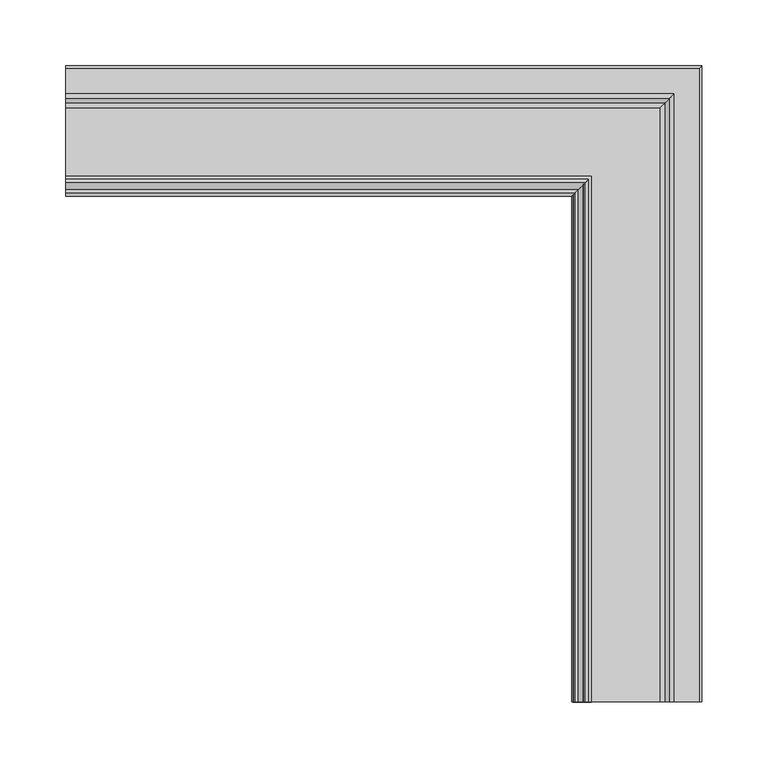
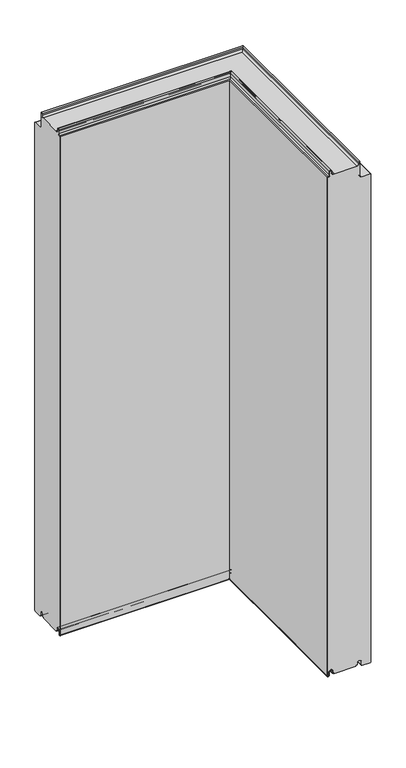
"""IFC4 building model written with IfcOpenShell, lengths in millimetres: plate geometry, Угловой модуль Fronttop : Угловой модуль Fronttop 100/1200."""

from ifc_helpers import new_model, si_unit, frame, origin, place, context, project, spatial, polyline, circle_curve, ellipse_curve, source, transform, mapped, element, save
from ifc_brep_helpers import plane_surface, cylinder_surface, revolved_surface, advanced_brep


def plate_e1a31c6e(model_context):
    return source(origin(), model_context, "Body", "AdvancedBrep", [
        advanced_brep(
        [(-234.5, 15.0, 3.0), (-234.5, 13.0, 3.0), (-234.5, 12.0, 4.0), (-234.5, 12.0, 8.0), (-234.5, 3.0, 8.0), (-234.5, 3.0, -0.5), (-234.5, 1.0, -0.5), (-234.5, 1.0, 1195.0278643), (-234.5, 2.1111111, 1196.0216723), (-234.5, 6.0, 1199.5), (-234.5, 6.0, 1208.0), (-234.5, 9.0, 1208.0), (-234.5, 9.0, 1204.0), (-234.5, 13.0, 1200.0), (-234.5, 67.0, 1200.0), (-234.5, 71.0, 1204.0), (-234.5, 71.0, 1208.0), (-234.5, 74.0, 1208.0), (-234.5, 74.0, 1175.0), (-234.5, 78.0, 1171.0), (-234.5, 97.0, 1171.0), (-234.5, 99.0, 1169.0), (-234.5, 99.0, 0.0), (-234.5, 97.0, -2.0), (-234.5, 79.0, -2.0), (-234.5, 77.0, 0.0), (-234.5, 77.0, 8.0), (-234.5, 68.0, 8.0), (-234.5, 68.0, 4.0), (-234.5, 67.0, 3.0), (-234.5, 65.0, 3.0), (-234.5, 65.0, 0.0), (-234.5, 15.0, 0.0), (165.0, 15.0, 0.0), (165.0, 15.0, 3.0), (215.0, 65.0, 0.0), (215.0, -384.5, 0.0), (165.0, -384.5, 0.0), (215.0, 65.0, 3.0), (217.0, 67.0, 3.0), (217.0, -384.5, 3.0), (215.0, -384.5, 3.0), (218.0, 68.0, 4.0), (218.0, 68.0, 8.0), (227.0, 77.0, 8.0), (227.0, 77.0, 0.0), (229.0, 79.0, -2.0), (247.0, 97.0, -2.0), (247.0, -384.5, -2.0), (229.0, -384.5, -2.0), (249.0, 99.0, 0.0), (249.0, 99.0, 1169.0), (247.0, 97.0, 1171.0), (228.0, 78.0, 1171.0), (228.0, -384.5, 1171.0), (247.0, -384.5, 1171.0), (224.0, 74.0, 1175.0), (224.0, 74.0, 1208.0), (221.0, 71.0, 1208.0), (221.0, 71.0, 1204.0), (217.0, 67.0, 1200.0), (163.0, 13.0, 1200.0), (163.0, -384.5, 1200.0), (217.0, -384.5, 1200.0), (159.0, 9.0, 1204.0), (159.0, 9.0, 1208.0), (156.0, 6.0, 1208.0), (156.0, 6.0, 1199.5), (152.1111111, 2.1111111, 1196.021672), (151.0, 1.0, 1195.0278643), (151.0, 1.0, -0.5), (153.0, 3.0, -0.5), (153.0, 3.0, 8.0), (162.0, 12.0, 8.0), (162.0, 12.0, 4.0), (163.0, 13.0, 3.0), (165.0, -384.5, 3.0), (163.0, -384.5, 3.0), (218.0, -384.5, 4.0), (218.0, -384.5, 8.0), (227.0, -384.5, 8.0), (227.0, -384.5, 0.0), (249.0, -384.5, 0.0), (249.0, -384.5, 1169.0), (224.0, -384.5, 1175.0), (224.0, -384.5, 1208.0), (221.0, -384.5, 1208.0), (221.0, -384.5, 1204.0), (159.0, -384.5, 1204.0), (159.0, -384.5, 1208.0), (156.0, -384.5, 1208.0), (156.0, -384.5, 1199.5), (152.1111111, -384.5, 1196.021672), (151.0, -384.5, 1195.0278643), (151.0, -384.5, -0.5), (153.0, -384.5, -0.5), (153.0, -384.5, 8.0), (162.0, -384.5, 8.0), (162.0, -384.5, 4.0)],
        [
            (0, 1),
            (1, 2, circle_curve(frame((-234.5, 13.0, 4.0), z_axis=(-1.0, 0.0, 0.0), x_axis=(0.0, -1.0, 0.0)), 1.0)),
            (2, 3),
            (3, 4, circle_curve(frame((-234.5, 7.5, 8.0), z_axis=(1.0, 0.0, 0.0), x_axis=(0.0, -1.0, 0.0)), 4.5)),
            (4, 5),
            (5, 6, circle_curve(frame((-234.5, 2.0, -0.5), z_axis=(-1.0, 0.0, 0.0), x_axis=(0.0, -1.0, 0.0)), 1.0)),
            (6, 7),
            (7, 8, circle_curve(frame((-234.5, 2.0, 1195.0278643), z_axis=(-1.0, 0.0, 0.0), x_axis=(0.0, -1.0, 0.0)), 1.0)),
            (8, 9, circle_curve(frame((-234.5, 2.5, 1199.5), z_axis=(1.0, 0.0, 0.0), x_axis=(0.0, -1.0, 0.0)), 3.5)),
            (9, 10),
            (10, 11, circle_curve(frame((-234.5, 7.5, 1208.0), z_axis=(-1.0, 0.0, 0.0), x_axis=(0.0, -1.0, 0.0)), 1.5)),
            (11, 12),
            (12, 13, circle_curve(frame((-234.5, 13.0, 1204.0), z_axis=(1.0, 0.0, 0.0), x_axis=(0.0, -1.0, 0.0)), 4.0)),
            (13, 14),
            (14, 15, circle_curve(frame((-234.5, 67.0, 1204.0), z_axis=(1.0, 0.0, 0.0), x_axis=(0.0, -1.0, 0.0)), 4.0)),
            (15, 16),
            (16, 17, circle_curve(frame((-234.5, 72.5, 1208.0), z_axis=(-1.0, 0.0, 0.0), x_axis=(0.0, -1.0, 0.0)), 1.5)),
            (17, 18),
            (18, 19, circle_curve(frame((-234.5, 78.0, 1175.0), z_axis=(1.0, 0.0, 0.0), x_axis=(0.0, -1.0, 0.0)), 4.0)),
            (19, 20),
            (20, 21, circle_curve(frame((-234.5, 97.0, 1169.0), z_axis=(-1.0, 0.0, 0.0), x_axis=(0.0, -1.0, 0.0)), 2.0)),
            (21, 22),
            (22, 23, circle_curve(frame((-234.5, 97.0, 0.0), z_axis=(-1.0, 0.0, 0.0), x_axis=(0.0, -1.0, 0.0)), 2.0)),
            (23, 24),
            (24, 25, circle_curve(frame((-234.5, 79.0, 0.0), z_axis=(-1.0, 0.0, 0.0), x_axis=(0.0, -1.0, 0.0)), 2.0)),
            (25, 26),
            (26, 27, circle_curve(frame((-234.5, 72.5, 8.0), z_axis=(1.0, 0.0, 0.0), x_axis=(0.0, -1.0, 0.0)), 4.5)),
            (27, 28),
            (28, 29, circle_curve(frame((-234.5, 67.0, 4.0), z_axis=(-1.0, 0.0, 0.0), x_axis=(0.0, -1.0, 0.0)), 1.0)),
            (29, 30),
            (30, 31),
            (31, 32),
            (32, 0),
            (32, 33),
            (33, 34),
            (34, 0),
            (31, 35),
            (35, 36),
            (36, 37),
            (37, 33),
            (30, 38),
            (38, 35),
            (29, 39),
            (39, 40),
            (40, 41),
            (41, 38),
            (28, 42),
            (42, 39, ellipse_curve(frame((217.0, 67.0, 4.0), z_axis=(-0.7071067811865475, 0.7071067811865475, 0.0), x_axis=(-0.7071067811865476, -0.7071067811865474, 0.0)), 1.4142136, 1.0)),
            (27, 43),
            (43, 42),
            (26, 44),
            (44, 43, ellipse_curve(frame((222.5, 72.5, 8.0), z_axis=(0.7071067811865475, -0.7071067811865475, 0.0), x_axis=(0.7071067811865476, 0.7071067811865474, 0.0)), 6.363961, 4.5)),
            (25, 45),
            (45, 44),
            (24, 46),
            (46, 45, ellipse_curve(frame((229.0, 79.0, 0.0), z_axis=(-0.7071067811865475, 0.7071067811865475, 0.0), x_axis=(-0.7071067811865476, -0.7071067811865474, 0.0)), 2.8284271, 2.0)),
            (23, 47),
            (47, 48),
            (48, 49),
            (49, 46),
            (22, 50),
            (50, 47, ellipse_curve(frame((247.0, 97.0, 0.0), z_axis=(-0.7071067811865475, 0.7071067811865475, 0.0), x_axis=(-0.7071067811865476, -0.7071067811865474, 0.0)), 2.8284271, 2.0)),
            (21, 51),
            (51, 50),
            (20, 52),
            (52, 51, ellipse_curve(frame((247.0, 97.0, 1169.0), z_axis=(-0.7071067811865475, 0.7071067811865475, 0.0), x_axis=(-0.7071067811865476, -0.7071067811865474, 0.0)), 2.8284271, 2.0)),
            (19, 53),
            (53, 54),
            (54, 55),
            (55, 52),
            (18, 56),
            (56, 53, ellipse_curve(frame((228.0, 78.0, 1175.0), z_axis=(0.7071067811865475, -0.7071067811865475, 0.0), x_axis=(0.7071067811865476, 0.7071067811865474, 0.0)), 5.6568542, 4.0)),
            (17, 57),
            (57, 56),
            (16, 58),
            (58, 57, ellipse_curve(frame((222.5, 72.5, 1208.0), z_axis=(-0.7071067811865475, 0.7071067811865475, 0.0), x_axis=(-0.7071067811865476, -0.7071067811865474, 0.0)), 2.1213203, 1.5)),
            (15, 59),
            (59, 58),
            (14, 60),
            (60, 59, ellipse_curve(frame((217.0, 67.0, 1204.0), z_axis=(0.7071067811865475, -0.7071067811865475, 0.0), x_axis=(0.7071067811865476, 0.7071067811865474, 0.0)), 5.6568542, 4.0)),
            (13, 61),
            (61, 62),
            (62, 63),
            (63, 60),
            (12, 64),
            (64, 61, ellipse_curve(frame((163.0, 13.0, 1204.0), z_axis=(0.7071067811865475, -0.7071067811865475, 0.0), x_axis=(0.7071067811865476, 0.7071067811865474, 0.0)), 5.6568542, 4.0)),
            (11, 65),
            (65, 64),
            (10, 66),
            (66, 65, ellipse_curve(frame((157.5, 7.5, 1208.0), z_axis=(-0.7071067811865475, 0.7071067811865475, 0.0), x_axis=(-0.7071067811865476, -0.7071067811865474, 0.0)), 2.1213204, 1.5)),
            (9, 67),
            (67, 66),
            (8, 68),
            (68, 67, ellipse_curve(frame((152.5, 2.5, 1199.5), z_axis=(0.7071067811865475, -0.7071067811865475, 0.0), x_axis=(0.7071067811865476, 0.7071067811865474, 0.0)), 4.9497475, 3.5)),
            (7, 69),
            (69, 68, ellipse_curve(frame((152.0, 2.0, 1195.0278643), z_axis=(-0.7071067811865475, 0.7071067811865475, 0.0), x_axis=(-0.7071067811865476, -0.7071067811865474, 0.0)), 1.4142136, 1.0)),
            (6, 70),
            (70, 69),
            (5, 71),
            (71, 70, ellipse_curve(frame((152.0, 2.0, -0.5), z_axis=(-0.7071067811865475, 0.7071067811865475, 0.0), x_axis=(-0.7071067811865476, -0.7071067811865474, 0.0)), 1.4142136, 1.0)),
            (4, 72),
            (72, 71),
            (3, 73),
            (73, 72, ellipse_curve(frame((157.5, 7.5, 8.0), z_axis=(0.7071067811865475, -0.7071067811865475, 0.0), x_axis=(0.7071067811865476, 0.7071067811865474, 0.0)), 6.363961, 4.5)),
            (2, 74),
            (74, 73),
            (1, 75),
            (75, 74, ellipse_curve(frame((163.0, 13.0, 4.0), z_axis=(-0.7071067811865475, 0.7071067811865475, 0.0), x_axis=(-0.7071067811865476, -0.7071067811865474, 0.0)), 1.4142136, 1.0)),
            (34, 76),
            (76, 77),
            (77, 75),
            (76, 37),
            (36, 41),
            (40, 78, circle_curve(frame((217.0, -384.5, 4.0), z_axis=(0.0, -1.0, 0.0), x_axis=(-1.0, 0.0, 0.0)), 1.0)),
            (78, 79),
            (79, 80, circle_curve(frame((222.5, -384.5, 8.0), z_axis=(0.0, 1.0, 0.0), x_axis=(-1.0, 0.0, 0.0)), 4.5)),
            (80, 81),
            (81, 49, circle_curve(frame((229.0, -384.5, 0.0), z_axis=(0.0, -1.0, 0.0), x_axis=(-1.0, 0.0, 0.0)), 2.0)),
            (48, 82, circle_curve(frame((247.0, -384.5, 0.0), z_axis=(0.0, -1.0, 0.0), x_axis=(-1.0, 0.0, 0.0)), 2.0)),
            (82, 83),
            (83, 55, circle_curve(frame((247.0, -384.5, 1169.0), z_axis=(0.0, -1.0, 0.0), x_axis=(-1.0, 0.0, 0.0)), 2.0)),
            (54, 84, circle_curve(frame((228.0, -384.5, 1175.0), z_axis=(0.0, 1.0, 0.0), x_axis=(-1.0, 0.0, 0.0)), 4.0)),
            (84, 85),
            (85, 86, circle_curve(frame((222.5, -384.5, 1208.0), z_axis=(0.0, -1.0, 0.0), x_axis=(-1.0, 0.0, 0.0)), 1.5)),
            (86, 87),
            (87, 63, circle_curve(frame((217.0, -384.5, 1204.0), z_axis=(0.0, 1.0, 0.0), x_axis=(-1.0, 0.0, 0.0)), 4.0)),
            (62, 88, circle_curve(frame((163.0, -384.5, 1204.0), z_axis=(0.0, 1.0, 0.0), x_axis=(-1.0, 0.0, 0.0)), 4.0)),
            (88, 89),
            (89, 90, circle_curve(frame((157.5, -384.5, 1208.0), z_axis=(0.0, -1.0, 0.0), x_axis=(-1.0, 0.0, 0.0)), 1.5)),
            (90, 91),
            (91, 92, circle_curve(frame((152.5, -384.5, 1199.5), z_axis=(0.0, 1.0, 0.0), x_axis=(-1.0, 0.0, 0.0)), 3.5)),
            (92, 93, circle_curve(frame((152.0, -384.5, 1195.0278643), z_axis=(0.0, -1.0, 0.0), x_axis=(-1.0, 0.0, 0.0)), 1.0)),
            (93, 94),
            (94, 95, circle_curve(frame((152.0, -384.5, -0.5), z_axis=(0.0, -1.0, 0.0), x_axis=(-1.0, 0.0, 0.0)), 1.0)),
            (95, 96),
            (96, 97, circle_curve(frame((157.5, -384.5, 8.0), z_axis=(0.0, 1.0, 0.0), x_axis=(-1.0, 0.0, 0.0)), 4.5)),
            (97, 98),
            (98, 77, circle_curve(frame((163.0, -384.5, 4.0), z_axis=(0.0, -1.0, 0.0), x_axis=(-1.0, 0.0, 0.0)), 1.0)),
            (42, 78),
            (43, 79),
            (44, 80),
            (45, 81),
            (50, 82),
            (51, 83),
            (56, 84),
            (57, 85),
            (58, 86),
            (59, 87),
            (64, 88),
            (65, 89),
            (66, 90),
            (67, 91),
            (68, 92),
            (69, 93),
            (70, 94),
            (71, 95),
            (72, 96),
            (73, 97),
            (74, 98),
        ],
        [
            plane_surface(frame((-234.5, 0.0, 0.0), z_axis=(-1.0, 0.0, 0.0), x_axis=(0.0, 0.0, 1.0))),
            plane_surface(frame((-234.5, 15.0, 0.0), z_axis=(0.0, -1.0, 0.0), x_axis=(1.0, 0.0, 0.0))),
            plane_surface(frame((-234.5, 65.0, 0.0), z_axis=(0.0, 0.0, -1.0), x_axis=(1.0, 0.0, 0.0))),
            plane_surface(frame((-234.5, 65.0, 3.0), z_axis=(0.0, 1.0, 0.0), x_axis=(1.0, 0.0, 0.0))),
            plane_surface(frame((-234.5, 67.0, 3.0), z_axis=(0.0, 0.0, -1.0), x_axis=(1.0, 0.0, 0.0))),
            cylinder_surface(frame((-234.5, 67.0, 4.0), z_axis=(-1.0, 0.0, 0.0), x_axis=(0.0, -1.0, 0.0)), 1.0),
            plane_surface(frame((-234.5, 68.0, 8.0), z_axis=(0.0, 1.0, 0.0), x_axis=(1.0, 0.0, 0.0))),
            revolved_surface(polyline([(227.0, 68.0, 8.0), (-234.5, 68.0, 8.0)]), (-234.5, 72.5, 8.0), (1.0, 0.0, 0.0)),
            plane_surface(frame((-234.5, 77.0, 0.0), z_axis=(0.0, -1.0, 0.0), x_axis=(1.0, 0.0, 0.0))),
            cylinder_surface(frame((-234.5, 79.0, 0.0), z_axis=(-1.0, 0.0, 0.0), x_axis=(0.0, -1.0, 0.0)), 2.0),
            plane_surface(frame((-234.5, 97.0, -2.0), z_axis=(0.0, 0.0, -1.0), x_axis=(1.0, 0.0, 0.0))),
            cylinder_surface(frame((-234.5, 97.0, 0.0), z_axis=(-1.0, 0.0, 0.0), x_axis=(0.0, -1.0, 0.0)), 2.0),
            plane_surface(frame((-234.5, 99.0, 1169.0), z_axis=(0.0, 1.0, 0.0), x_axis=(1.0, 0.0, 0.0))),
            cylinder_surface(frame((-234.5, 97.0, 1169.0), z_axis=(-1.0, 0.0, 0.0), x_axis=(0.0, -1.0, 0.0)), 2.0),
            plane_surface(frame((-234.5, 78.0, 1171.0), z_axis=(0.0, 0.0, 1.0), x_axis=(1.0, 0.0, 0.0))),
            revolved_surface(polyline([(231.9999999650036, 74.0, 1175.0), (-234.5, 74.0, 1175.0)]), (-234.5, 78.0, 1175.0), (1.0, 0.0, 0.0)),
            plane_surface(frame((-234.5, 74.0, 1208.0), z_axis=(0.0, 1.0, 0.0), x_axis=(1.0, 0.0, 0.0))),
            cylinder_surface(frame((-234.5, 72.5, 1208.0), z_axis=(-1.0, 0.0, 0.0), x_axis=(0.0, -1.0, 0.0)), 1.5),
            plane_surface(frame((-234.5, 71.0, 1204.0), z_axis=(0.0, -1.0, 0.0), x_axis=(1.0, 0.0, 0.0))),
            revolved_surface(polyline([(221.0, 63.0, 1204.0), (-234.5, 63.0, 1204.0)]), (-234.5, 67.0, 1204.0), (1.0, 0.0, 0.0)),
            plane_surface(frame((-234.5, 13.0, 1200.0), z_axis=(0.0, 0.0, 1.0), x_axis=(1.0, 0.0, 0.0))),
            revolved_surface(polyline([(166.9999999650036, 9.0, 1204.0), (-234.5, 9.0, 1204.0)]), (-234.5, 13.0, 1204.0), (1.0, 0.0, 0.0)),
            plane_surface(frame((-234.5, 9.0, 1208.0), z_axis=(0.0, 1.0, 0.0), x_axis=(1.0, 0.0, 0.0))),
            cylinder_surface(frame((-234.5, 7.5, 1208.0), z_axis=(-1.0, 0.0, 0.0), x_axis=(0.0, -1.0, 0.0)), 1.5),
            plane_surface(frame((-234.5, 6.0, 1199.5), z_axis=(0.0, -1.0, 0.0), x_axis=(1.0, 0.0, 0.0))),
            revolved_surface(polyline([(156.00000002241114, -1.0, 1199.5), (-234.5, -1.0, 1199.5)]), (-234.5, 2.5, 1199.5), (1.0, 0.0, 0.0)),
            cylinder_surface(frame((-234.5, 2.0, 1195.0278643), z_axis=(-1.0, 0.0, 0.0), x_axis=(0.0, -1.0, 0.0)), 1.0),
            plane_surface(frame((-234.5, 1.0, -0.5), z_axis=(0.0, -1.0, 0.0), x_axis=(1.0, 0.0, 0.0))),
            cylinder_surface(frame((-234.5, 2.0, -0.5), z_axis=(-1.0, 0.0, 0.0), x_axis=(0.0, -1.0, 0.0)), 1.0),
            plane_surface(frame((-234.5, 3.0, 8.0), z_axis=(0.0, 1.0, 0.0), x_axis=(1.0, 0.0, 0.0))),
            revolved_surface(polyline([(162.0, 3.0, 8.0), (-234.5, 3.0, 8.0)]), (-234.5, 7.5, 8.0), (1.0, 0.0, 0.0)),
            plane_surface(frame((-234.5, 12.0, 4.0), z_axis=(0.0, -1.0, 0.0), x_axis=(1.0, 0.0, 0.0))),
            cylinder_surface(frame((-234.5, 13.0, 4.0), z_axis=(-1.0, 0.0, 0.0), x_axis=(0.0, -1.0, 0.0)), 1.0),
            plane_surface(frame((-234.5, 15.0, 3.0), z_axis=(0.0, 0.0, -1.0), x_axis=(1.0, 0.0, 0.0))),
            plane_surface(frame((150.0, -384.5, 0.0), z_axis=(0.0, -1.0, 0.0), x_axis=(0.0, 0.0, 1.0))),
            plane_surface(frame((165.0, 15.0, 0.0), z_axis=(-1.0, 0.0, 0.0), x_axis=(0.0, -1.0, 0.0))),
            plane_surface(frame((215.0, 65.0, 3.0), z_axis=(1.0, 0.0, 0.0), x_axis=(0.0, -1.0, 0.0))),
            cylinder_surface(frame((217.0, 0.0, 4.0), z_axis=(0.0, 1.0, 0.0), x_axis=(-1.0, 0.0, 0.0)), 1.0),
            plane_surface(frame((218.0, 68.0, 8.0), z_axis=(1.0, 0.0, 0.0), x_axis=(0.0, -1.0, 0.0))),
            revolved_surface(polyline([(218.0, -384.5, 8.0), (218.0, 77.0, 8.0)]), (222.5, 0.0, 8.0), (0.0, -1.0, 0.0)),
            plane_surface(frame((227.0, 77.0, 0.0), z_axis=(-1.0, 0.0, 0.0), x_axis=(0.0, -1.0, 0.0))),
            cylinder_surface(frame((229.0, 0.0, 0.0), z_axis=(0.0, 1.0, 0.0), x_axis=(-1.0, 0.0, 0.0)), 2.0),
            cylinder_surface(frame((247.0, 0.0, 0.0), z_axis=(0.0, 1.0, 0.0), x_axis=(-1.0, 0.0, 0.0)), 2.0),
            plane_surface(frame((249.0, 99.0, 1169.0), z_axis=(1.0, 0.0, 0.0), x_axis=(0.0, -1.0, 0.0))),
            cylinder_surface(frame((247.0, 0.0, 1169.0), z_axis=(0.0, 1.0, 0.0), x_axis=(-1.0, 0.0, 0.0)), 2.0),
            revolved_surface(polyline([(224.0, -384.5, 1175.0), (224.0, 81.9999999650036, 1175.0)]), (228.0, 0.0, 1175.0), (0.0, -1.0, 0.0)),
            plane_surface(frame((224.0, 74.0, 1208.0), z_axis=(1.0, 0.0, 0.0), x_axis=(0.0, -1.0, 0.0))),
            cylinder_surface(frame((222.5, 0.0, 1208.0), z_axis=(0.0, 1.0, 0.0), x_axis=(-1.0, 0.0, 0.0)), 1.5),
            plane_surface(frame((221.0, 71.0, 1204.0), z_axis=(-1.0, 0.0, 0.0), x_axis=(0.0, -1.0, 0.0))),
            revolved_surface(polyline([(213.0, -384.5, 1204.0), (213.0, 71.0, 1204.0)]), (217.0, 0.0, 1204.0), (0.0, -1.0, 0.0)),
            revolved_surface(polyline([(159.0, -384.5, 1204.0), (159.0, 16.999999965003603, 1204.0)]), (163.0, 0.0, 1204.0), (0.0, -1.0, 0.0)),
            plane_surface(frame((159.0, 9.0, 1208.0), z_axis=(1.0, 0.0, 0.0), x_axis=(0.0, -1.0, 0.0))),
            cylinder_surface(frame((157.5, 0.0, 1208.0), z_axis=(0.0, 1.0, 0.0), x_axis=(-1.0, 0.0, 0.0)), 1.5),
            plane_surface(frame((156.0, 6.0, 1199.5), z_axis=(-1.0, 0.0, 0.0), x_axis=(0.0, -1.0, 0.0))),
            revolved_surface(polyline([(149.0, -384.5, 1199.5), (149.0, 6.000000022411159, 1199.5)]), (152.5, 0.0, 1199.5), (0.0, -1.0, 0.0)),
            cylinder_surface(frame((152.0, 0.0, 1195.0278643), z_axis=(0.0, 1.0, 0.0), x_axis=(-1.0, 0.0, 0.0)), 1.0),
            plane_surface(frame((151.0, 1.0, -0.5), z_axis=(-1.0, 0.0, 0.0), x_axis=(0.0, -1.0, 0.0))),
            cylinder_surface(frame((152.0, 0.0, -0.5), z_axis=(0.0, 1.0, 0.0), x_axis=(-1.0, 0.0, 0.0)), 1.0),
            plane_surface(frame((153.0, 3.0, 8.0), z_axis=(1.0, 0.0, 0.0), x_axis=(0.0, -1.0, 0.0))),
            revolved_surface(polyline([(153.0, -384.5, 8.0), (153.0, 12.0, 8.0)]), (157.5, 0.0, 8.0), (0.0, -1.0, 0.0)),
            plane_surface(frame((162.0, 12.0, 4.0), z_axis=(-1.0, 0.0, 0.0), x_axis=(0.0, -1.0, 0.0))),
            cylinder_surface(frame((163.0, 0.0, 4.0), z_axis=(0.0, 1.0, 0.0), x_axis=(-1.0, 0.0, 0.0)), 1.0),
        ],
        [
            (0, [[1, 2, 3, 4, 5, 6, 7, 8, 9, 10, 11, 12, 13, 14, 15, 16, 17, 18, 19, 20, 21, 22, 23, 24, 25, 26, 27, 28, 29, 30, 31, 32, 33]]),
            (1, [[-33, 34, 35, 36]]),
            (2, [[-32, 37, 38, 39, 40, -34]]),
            (3, [[-31, 41, 42, -37]]),
            (4, [[-30, 43, 44, 45, 46, -41]]),
            (5, [[-29, 47, 48, -43]]),
            (6, [[-28, 49, 50, -47]]),
            (7, [[-27, 51, 52, -49]]),
            (8, [[-26, 53, 54, -51]]),
            (9, [[-25, 55, 56, -53]]),
            (10, [[-24, 57, 58, 59, 60, -55]]),
            (11, [[-23, 61, 62, -57]]),
            (12, [[-22, 63, 64, -61]]),
            (13, [[-21, 65, 66, -63]]),
            (14, [[-20, 67, 68, 69, 70, -65]]),
            (15, [[-19, 71, 72, -67]]),
            (16, [[-18, 73, 74, -71]]),
            (17, [[-17, 75, 76, -73]]),
            (18, [[-16, 77, 78, -75]]),
            (19, [[-15, 79, 80, -77]]),
            (20, [[-14, 81, 82, 83, 84, -79]]),
            (21, [[-13, 85, 86, -81]]),
            (22, [[-12, 87, 88, -85]]),
            (23, [[-11, 89, 90, -87]]),
            (24, [[-10, 91, 92, -89]]),
            (25, [[-9, 93, 94, -91]]),
            (26, [[-8, 95, 96, -93]]),
            (27, [[-7, 97, 98, -95]]),
            (28, [[-6, 99, 100, -97]]),
            (29, [[-5, 101, 102, -99]]),
            (30, [[-4, 103, 104, -101]]),
            (31, [[-3, 105, 106, -103]]),
            (32, [[-2, 107, 108, -105]]),
            (33, [[-1, -36, 109, 110, 111, -107]]),
            (34, [[112, -39, 113, -45, 114, 115, 116, 117, 118, -59, 119, 120, 121, -69, 122, 123, 124, 125, 126, -83, 127, 128, 129, 130, 131, 132, 133, 134, 135, 136, 137, 138, -110]]),
            (35, [[-35, -40, -112, -109]]),
            (36, [[-42, -46, -113, -38]]),
            (37, [[-48, 139, -114, -44]]),
            (38, [[-50, 140, -115, -139]]),
            (39, [[-52, 141, -116, -140]]),
            (40, [[-54, 142, -117, -141]]),
            (41, [[-56, -60, -118, -142]]),
            (42, [[-62, 143, -119, -58]]),
            (43, [[-64, 144, -120, -143]]),
            (44, [[-66, -70, -121, -144]]),
            (45, [[-72, 145, -122, -68]]),
            (46, [[-74, 146, -123, -145]]),
            (47, [[-76, 147, -124, -146]]),
            (48, [[-78, 148, -125, -147]]),
            (49, [[-80, -84, -126, -148]]),
            (50, [[-86, 149, -127, -82]]),
            (51, [[-88, 150, -128, -149]]),
            (52, [[-90, 151, -129, -150]]),
            (53, [[-92, 152, -130, -151]]),
            (54, [[-94, 153, -131, -152]]),
            (55, [[-96, 154, -132, -153]]),
            (56, [[-98, 155, -133, -154]]),
            (57, [[-100, 156, -134, -155]]),
            (58, [[-102, 157, -135, -156]]),
            (59, [[-104, 158, -136, -157]]),
            (60, [[-106, 159, -137, -158]]),
            (61, [[-108, -111, -138, -159]]),
        ],
    ),
        advanced_brep(
        [(-234.5, 13.0, 1201.0), (-234.5, 15.0, 1201.0), (-234.5, 15.0, 1200.0), (-234.5, 13.0, 1200.0), (-234.5, 9.0, 1204.0), (-234.5, 9.0, 1208.0), (-234.5, 6.0, 1208.0), (-234.5, 6.0, 1199.5), (-234.5, 2.1134897, 1196.0214069), (-234.5, 1.0, 1195.0), (-234.5, 1.0, -0.5), (-234.5, 3.0, -0.5), (-234.5, 3.0, 8.0), (-234.5, 12.0, 8.0), (-234.5, 12.0, 4.0), (-234.5, 13.0, 3.0), (-234.5, 15.0, 3.0), (-234.5, 15.0, 2.0), (-234.5, 13.0, 2.0), (-234.5, 11.0, 4.0), (-234.5, 11.0, 8.0), (-234.5, 4.0, 8.0), (-234.5, 4.0, -0.5), (-234.5, 0.0, -0.5), (-234.5, 0.0, 1195.0), (-234.5, 2.220863, 1196.9877675), (-234.5, 5.0, 1199.5), (-234.5, 5.0, 1208.0), (-234.5, 10.0, 1208.0), (-234.5, 10.0, 1204.0), (163.0, 13.0, 1201.0), (163.0, -384.5, 1201.0), (165.0, -384.5, 1201.0), (165.0, 15.0, 1201.0), (165.0, 15.0, 1200.0), (165.0, -384.5, 1200.0), (163.0, -384.5, 1200.0), (163.0, 13.0, 1200.0), (159.0, 9.0, 1204.0), (159.0, 9.0, 1208.0), (156.0, 6.0, 1208.0), (156.0, 6.0, 1199.5), (152.1134897, 2.1134897, 1196.0214069), (151.0, 1.0, 1195.0), (151.0, 1.0, -0.5), (153.0, 3.0, -0.5), (153.0, 3.0, 8.0), (162.0, 12.0, 8.0), (162.0, 12.0, 4.0), (163.0, 13.0, 3.0), (163.0, -384.5, 3.0), (165.0, -384.5, 3.0), (165.0, 15.0, 3.0), (165.0, 15.0, 2.0), (165.0, -384.5, 2.0), (163.0, -384.5, 2.0), (163.0, 13.0, 2.0), (161.0, 11.0, 4.0), (161.0, 11.0, 8.0), (154.0, 4.0, 8.0), (154.0, 4.0, -0.5), (150.0, 0.0, -0.5), (150.0, 0.0, 1195.0), (152.220863, 2.220863, 1196.9877675), (155.0, 5.0, 1199.5), (155.0, 5.0, 1208.0), (160.0, 10.0, 1208.0), (160.0, 10.0, 1204.0), (160.0, -384.5, 1204.0), (160.0, -384.5, 1208.0), (155.0, -384.5, 1208.0), (155.0, -384.5, 1199.5), (152.2239212, -384.5, 1197.0152907), (150.0, -384.5, 1195.0), (150.0, -384.5, -0.5), (154.0, -384.5, -0.5), (154.0, -384.5, 8.0), (161.0, -384.5, 8.0), (161.0, -384.5, 4.0), (162.0, -384.5, 4.0), (162.0, -384.5, 8.0), (153.0, -384.5, 8.0), (153.0, -384.5, -0.5), (151.0, -384.5, -0.5), (151.0, -384.5, 1195.0), (152.1104315, -384.5, 1195.9938837), (156.0, -384.5, 1199.5), (156.0, -384.5, 1208.0), (159.0, -384.5, 1208.0), (159.0, -384.5, 1204.0)],
        [
            (0, 1),
            (1, 2),
            (2, 3),
            (3, 4, circle_curve(frame((-234.5, 13.0, 1204.0), z_axis=(-1.0, 0.0, 0.0), x_axis=(0.0, -1.0, 0.0)), 4.0)),
            (4, 5),
            (5, 6, circle_curve(frame((-234.5, 7.5, 1208.0), z_axis=(1.0, 0.0, 0.0), x_axis=(0.0, -1.0, 0.0)), 1.5)),
            (6, 7),
            (7, 8, circle_curve(frame((-234.5, 2.5, 1199.5), z_axis=(-1.0, 0.0, 0.0), x_axis=(0.0, -1.0, 0.0)), 3.5)),
            (8, 9, circle_curve(frame((-234.5, 2.0, 1195.0), z_axis=(1.0, 0.0, 0.0), x_axis=(0.0, -1.0, 0.0)), 1.0)),
            (9, 10),
            (10, 11, circle_curve(frame((-234.5, 2.0, -0.5), z_axis=(1.0, 0.0, 0.0), x_axis=(0.0, -1.0, 0.0)), 1.0)),
            (11, 12),
            (12, 13, circle_curve(frame((-234.5, 7.5, 8.0), z_axis=(-1.0, 0.0, 0.0), x_axis=(0.0, -1.0, 0.0)), 4.5)),
            (13, 14),
            (14, 15, circle_curve(frame((-234.5, 13.0, 4.0), z_axis=(1.0, 0.0, 0.0), x_axis=(0.0, -1.0, 0.0)), 1.0)),
            (15, 16),
            (16, 17),
            (17, 18),
            (18, 19, circle_curve(frame((-234.5, 13.0, 4.0), z_axis=(-1.0, 0.0, 0.0), x_axis=(0.0, -1.0, 0.0)), 2.0)),
            (19, 20),
            (20, 21, circle_curve(frame((-234.5, 7.5, 8.0), z_axis=(1.0, 0.0, 0.0), x_axis=(0.0, -1.0, 0.0)), 3.5)),
            (21, 22),
            (22, 23, circle_curve(frame((-234.5, 2.0, -0.5), z_axis=(-1.0, 0.0, 0.0), x_axis=(0.0, -1.0, 0.0)), 2.0)),
            (23, 24),
            (24, 25, circle_curve(frame((-234.5, 2.0, 1195.0), z_axis=(-1.0, 0.0, 0.0), x_axis=(0.0, -1.0, 0.0)), 2.0)),
            (25, 26, circle_curve(frame((-234.5, 2.5, 1199.5), z_axis=(1.0, 0.0, 0.0), x_axis=(0.0, -1.0, 0.0)), 2.5)),
            (26, 27),
            (27, 28, circle_curve(frame((-234.5, 7.5, 1208.0), z_axis=(-1.0, 0.0, 0.0), x_axis=(0.0, -1.0, 0.0)), 2.5)),
            (28, 29),
            (29, 0, circle_curve(frame((-234.5, 13.0, 1204.0), z_axis=(1.0, 0.0, 0.0), x_axis=(0.0, -1.0, 0.0)), 3.0)),
            (0, 30),
            (30, 31),
            (31, 32),
            (32, 33),
            (33, 1),
            (33, 34),
            (34, 2),
            (34, 35),
            (35, 36),
            (36, 37),
            (37, 3),
            (37, 38, ellipse_curve(frame((163.0, 13.0, 1204.0), z_axis=(-0.7071067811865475, 0.7071067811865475, 0.0), x_axis=(-0.7071067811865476, -0.7071067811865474, 0.0)), 5.6568542, 4.0)),
            (38, 4),
            (38, 39),
            (39, 5),
            (39, 40, ellipse_curve(frame((157.5, 7.5, 1208.0), z_axis=(0.7071067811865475, -0.7071067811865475, 0.0), x_axis=(0.7071067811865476, 0.7071067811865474, 0.0)), 2.1213204, 1.5)),
            (40, 6),
            (40, 41),
            (41, 7),
            (41, 42, ellipse_curve(frame((152.5, 2.5, 1199.5), z_axis=(-0.7071067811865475, 0.7071067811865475, 0.0), x_axis=(-0.7071067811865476, -0.7071067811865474, 0.0)), 4.9497475, 3.5)),
            (42, 8),
            (42, 43, ellipse_curve(frame((152.0, 2.0, 1195.0), z_axis=(0.7071067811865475, -0.7071067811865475, 0.0), x_axis=(0.7071067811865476, 0.7071067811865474, 0.0)), 1.4142136, 1.0)),
            (43, 9),
            (43, 44),
            (44, 10),
            (44, 45, ellipse_curve(frame((152.0, 2.0, -0.5), z_axis=(0.7071067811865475, -0.7071067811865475, 0.0), x_axis=(0.7071067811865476, 0.7071067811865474, 0.0)), 1.4142136, 1.0)),
            (45, 11),
            (45, 46),
            (46, 12),
            (46, 47, ellipse_curve(frame((157.5, 7.5, 8.0), z_axis=(-0.7071067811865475, 0.7071067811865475, 0.0), x_axis=(-0.7071067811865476, -0.7071067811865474, 0.0)), 6.363961, 4.5)),
            (47, 13),
            (47, 48),
            (48, 14),
            (48, 49, ellipse_curve(frame((163.0, 13.0, 4.0), z_axis=(0.7071067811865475, -0.7071067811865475, 0.0), x_axis=(0.7071067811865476, 0.7071067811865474, 0.0)), 1.4142136, 1.0)),
            (49, 15),
            (49, 50),
            (50, 51),
            (51, 52),
            (52, 16),
            (52, 53),
            (53, 17),
            (53, 54),
            (54, 55),
            (55, 56),
            (56, 18),
            (56, 57, ellipse_curve(frame((163.0, 13.0, 4.0), z_axis=(-0.7071067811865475, 0.7071067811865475, 0.0), x_axis=(-0.7071067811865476, -0.7071067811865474, 0.0)), 2.8284271, 2.0)),
            (57, 19),
            (57, 58),
            (58, 20),
            (58, 59, ellipse_curve(frame((157.5, 7.5, 8.0), z_axis=(0.7071067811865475, -0.7071067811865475, 0.0), x_axis=(0.7071067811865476, 0.7071067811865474, 0.0)), 4.9497475, 3.5)),
            (59, 21),
            (59, 60),
            (60, 22),
            (60, 61, ellipse_curve(frame((152.0, 2.0, -0.5), z_axis=(-0.7071067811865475, 0.7071067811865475, 0.0), x_axis=(-0.7071067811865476, -0.7071067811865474, 0.0)), 2.8284271, 2.0)),
            (61, 23),
            (61, 62),
            (62, 24),
            (62, 63, ellipse_curve(frame((152.0, 2.0, 1195.0), z_axis=(-0.7071067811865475, 0.7071067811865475, 0.0), x_axis=(-0.7071067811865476, -0.7071067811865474, 0.0)), 2.8284271, 2.0)),
            (63, 25),
            (63, 64, ellipse_curve(frame((152.5, 2.5, 1199.5), z_axis=(0.7071067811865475, -0.7071067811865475, 0.0), x_axis=(0.7071067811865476, 0.7071067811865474, 0.0)), 3.5355339, 2.5)),
            (64, 26),
            (64, 65),
            (65, 27),
            (65, 66, ellipse_curve(frame((157.5, 7.5, 1208.0), z_axis=(-0.7071067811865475, 0.7071067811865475, 0.0), x_axis=(-0.7071067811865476, -0.7071067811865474, 0.0)), 3.5355339, 2.5)),
            (66, 28),
            (66, 67),
            (67, 29),
            (67, 30, ellipse_curve(frame((163.0, 13.0, 1204.0), z_axis=(0.7071067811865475, -0.7071067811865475, 0.0), x_axis=(0.7071067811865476, 0.7071067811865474, 0.0)), 4.2426407, 3.0)),
            (31, 68, circle_curve(frame((163.0, -384.5, 1204.0), z_axis=(0.0, 1.0, 0.0), x_axis=(-1.0, 0.0, 0.0)), 3.0)),
            (68, 69),
            (69, 70, circle_curve(frame((157.5, -384.5, 1208.0), z_axis=(0.0, -1.0, 0.0), x_axis=(-1.0, 0.0, 0.0)), 2.5)),
            (70, 71),
            (71, 72, circle_curve(frame((152.5, -384.5, 1199.5), z_axis=(0.0, 1.0, 0.0), x_axis=(-1.0, 0.0, 0.0)), 2.5)),
            (72, 73, circle_curve(frame((152.0, -384.5, 1195.0), z_axis=(0.0, -1.0, 0.0), x_axis=(-1.0, 0.0, 0.0)), 2.0)),
            (73, 74),
            (74, 75, circle_curve(frame((152.0, -384.5, -0.5), z_axis=(0.0, -1.0, 0.0), x_axis=(-1.0, 0.0, 0.0)), 2.0)),
            (75, 76),
            (76, 77, circle_curve(frame((157.5, -384.5, 8.0), z_axis=(0.0, 1.0, 0.0), x_axis=(-1.0, 0.0, 0.0)), 3.5)),
            (77, 78),
            (78, 55, circle_curve(frame((163.0, -384.5, 4.0), z_axis=(0.0, -1.0, 0.0), x_axis=(-1.0, 0.0, 0.0)), 2.0)),
            (54, 51),
            (50, 79, circle_curve(frame((163.0, -384.5, 4.0), z_axis=(0.0, 1.0, 0.0), x_axis=(-1.0, 0.0, 0.0)), 1.0)),
            (79, 80),
            (80, 81, circle_curve(frame((157.5, -384.5, 8.0), z_axis=(0.0, -1.0, 0.0), x_axis=(-1.0, 0.0, 0.0)), 4.5)),
            (81, 82),
            (82, 83, circle_curve(frame((152.0, -384.5, -0.5), z_axis=(0.0, 1.0, 0.0), x_axis=(-1.0, 0.0, 0.0)), 1.0)),
            (83, 84),
            (84, 85, circle_curve(frame((152.0, -384.5, 1195.0), z_axis=(0.0, 1.0, 0.0), x_axis=(-1.0, 0.0, 0.0)), 1.0)),
            (85, 86, circle_curve(frame((152.5, -384.5, 1199.5), z_axis=(0.0, -1.0, 0.0), x_axis=(-1.0, 0.0, 0.0)), 3.5)),
            (86, 87),
            (87, 88, circle_curve(frame((157.5, -384.5, 1208.0), z_axis=(0.0, 1.0, 0.0), x_axis=(-1.0, 0.0, 0.0)), 1.5)),
            (88, 89),
            (89, 36, circle_curve(frame((163.0, -384.5, 1204.0), z_axis=(0.0, -1.0, 0.0), x_axis=(-1.0, 0.0, 0.0)), 4.0)),
            (35, 32),
            (89, 38),
            (88, 39),
            (87, 40),
            (86, 41),
            (85, 42),
            (84, 43),
            (83, 44),
            (82, 45),
            (81, 46),
            (80, 47),
            (79, 48),
            (78, 57),
            (77, 58),
            (76, 59),
            (75, 60),
            (74, 61),
            (73, 62),
            (72, 63),
            (71, 64),
            (70, 65),
            (69, 66),
            (68, 67),
        ],
        [
            plane_surface(frame((-234.5, 0.0, 0.0), z_axis=(-1.0, 0.0, 0.0), x_axis=(0.0, 0.0, 1.0))),
            plane_surface(frame((-234.5, 13.0, 1201.0), z_axis=(0.0, 0.0, 1.0), x_axis=(1.0, 0.0, 0.0))),
            plane_surface(frame((-234.5, 15.0, 1201.0), z_axis=(0.0, 1.0, 0.0), x_axis=(1.0, 0.0, 0.0))),
            plane_surface(frame((-234.5, 15.0, 1200.0), z_axis=(0.0, 0.0, -1.0), x_axis=(1.0, 0.0, 0.0))),
            cylinder_surface(frame((-234.5, 13.0, 1204.0), z_axis=(-1.0, 0.0, 0.0), x_axis=(0.0, -1.0, 0.0)), 4.0),
            plane_surface(frame((-234.5, 9.0, 1204.0), z_axis=(0.0, -1.0, 0.0), x_axis=(1.0, 0.0, 0.0))),
            revolved_surface(polyline([(159.00000003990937, 6.0, 1208.0), (-234.5, 6.0, 1208.0)]), (-234.5, 7.5, 1208.0), (1.0, 0.0, 0.0)),
            plane_surface(frame((-234.5, 6.0, 1208.0), z_axis=(0.0, 1.0, 0.0), x_axis=(1.0, 0.0, 0.0))),
            cylinder_surface(frame((-234.5, 2.5, 1199.5), z_axis=(-1.0, 0.0, 0.0), x_axis=(0.0, -1.0, 0.0)), 3.5),
            revolved_surface(polyline([(153.00000002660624, 1.0, 1195.0), (-234.5, 1.0, 1195.0)]), (-234.5, 2.0, 1195.0), (1.0, 0.0, 0.0)),
            plane_surface(frame((-234.5, 1.0, 1195.0), z_axis=(0.0, 1.0, 0.0), x_axis=(1.0, 0.0, 0.0))),
            revolved_surface(polyline([(153.00000002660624, 1.0, -0.5), (-234.5, 1.0, -0.5)]), (-234.5, 2.0, -0.5), (1.0, 0.0, 0.0)),
            plane_surface(frame((-234.5, 3.0, -0.5), z_axis=(0.0, -1.0, 0.0), x_axis=(1.0, 0.0, 0.0))),
            cylinder_surface(frame((-234.5, 7.5, 8.0), z_axis=(-1.0, 0.0, 0.0), x_axis=(0.0, -1.0, 0.0)), 4.5),
            plane_surface(frame((-234.5, 12.0, 8.0), z_axis=(0.0, 1.0, 0.0), x_axis=(1.0, 0.0, 0.0))),
            revolved_surface(polyline([(164.00000002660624, 12.0, 4.0), (-234.5, 12.0, 4.0)]), (-234.5, 13.0, 4.0), (1.0, 0.0, 0.0)),
            plane_surface(frame((-234.5, 13.0, 3.0), z_axis=(0.0, 0.0, 1.0), x_axis=(1.0, 0.0, 0.0))),
            plane_surface(frame((-234.5, 15.0, 3.0), z_axis=(0.0, 1.0, 0.0), x_axis=(1.0, 0.0, 0.0))),
            plane_surface(frame((-234.5, 15.0, 2.0), z_axis=(0.0, 0.0, -1.0), x_axis=(1.0, 0.0, 0.0))),
            cylinder_surface(frame((-234.5, 13.0, 4.0), z_axis=(-1.0, 0.0, 0.0), x_axis=(0.0, -1.0, 0.0)), 2.0),
            plane_surface(frame((-234.5, 11.0, 4.0), z_axis=(0.0, -1.0, 0.0), x_axis=(1.0, 0.0, 0.0))),
            revolved_surface(polyline([(161.00000002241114, 4.0, 8.0), (-234.5, 4.0, 8.0)]), (-234.5, 7.5, 8.0), (1.0, 0.0, 0.0)),
            plane_surface(frame((-234.5, 4.0, 8.0), z_axis=(0.0, 1.0, 0.0), x_axis=(1.0, 0.0, 0.0))),
            cylinder_surface(frame((-234.5, 2.0, -0.5), z_axis=(-1.0, 0.0, 0.0), x_axis=(0.0, -1.0, 0.0)), 2.0),
            plane_surface(frame((-234.5, 0.0, -0.5), z_axis=(0.0, -1.0, 0.0), x_axis=(1.0, 0.0, 0.0))),
            cylinder_surface(frame((-234.5, 2.0, 1195.0), z_axis=(-1.0, 0.0, 0.0), x_axis=(0.0, -1.0, 0.0)), 2.0),
            revolved_surface(polyline([(155.0, 0.0, 1199.5), (-234.5, 0.0, 1199.5)]), (-234.5, 2.5, 1199.5), (1.0, 0.0, 0.0)),
            plane_surface(frame((-234.5, 5.0, 1199.5), z_axis=(0.0, -1.0, 0.0), x_axis=(1.0, 0.0, 0.0))),
            cylinder_surface(frame((-234.5, 7.5, 1208.0), z_axis=(-1.0, 0.0, 0.0), x_axis=(0.0, -1.0, 0.0)), 2.5),
            plane_surface(frame((-234.5, 10.0, 1208.0), z_axis=(0.0, 1.0, 0.0), x_axis=(1.0, 0.0, 0.0))),
            revolved_surface(polyline([(166.00000000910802, 10.0, 1204.0), (-234.5, 10.0, 1204.0)]), (-234.5, 13.0, 1204.0), (1.0, 0.0, 0.0)),
            plane_surface(frame((150.0, -384.5, 0.0), z_axis=(0.0, -1.0, 0.0), x_axis=(0.0, 0.0, 1.0))),
            plane_surface(frame((165.0, 15.0, 1201.0), z_axis=(1.0, 0.0, 0.0), x_axis=(0.0, -1.0, 0.0))),
            cylinder_surface(frame((163.0, 0.0, 1204.0), z_axis=(0.0, 1.0, 0.0), x_axis=(-1.0, 0.0, 0.0)), 4.0),
            plane_surface(frame((159.0, 9.0, 1204.0), z_axis=(-1.0, 0.0, 0.0), x_axis=(0.0, -1.0, 0.0))),
            revolved_surface(polyline([(156.0, -384.5, 1208.0), (156.0, 9.00000003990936, 1208.0)]), (157.5, 0.0, 1208.0), (0.0, -1.0, 0.0)),
            plane_surface(frame((156.0, 6.0, 1208.0), z_axis=(1.0, 0.0, 0.0), x_axis=(0.0, -1.0, 0.0))),
            cylinder_surface(frame((152.5, 0.0, 1199.5), z_axis=(0.0, 1.0, 0.0), x_axis=(-1.0, 0.0, 0.0)), 3.5),
            revolved_surface(polyline([(151.0, -384.5, 1195.0), (151.0, 3.0000000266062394, 1195.0)]), (152.0, 0.0, 1195.0), (0.0, -1.0, 0.0)),
            plane_surface(frame((151.0, 1.0, 1195.0), z_axis=(1.0, 0.0, 0.0), x_axis=(0.0, -1.0, 0.0))),
            revolved_surface(polyline([(151.0, -384.5, -0.5), (151.0, 3.0000000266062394, -0.5)]), (152.0, 0.0, -0.5), (0.0, -1.0, 0.0)),
            plane_surface(frame((153.0, 3.0, -0.5), z_axis=(-1.0, 0.0, 0.0), x_axis=(0.0, -1.0, 0.0))),
            cylinder_surface(frame((157.5, 0.0, 8.0), z_axis=(0.0, 1.0, 0.0), x_axis=(-1.0, 0.0, 0.0)), 4.5),
            plane_surface(frame((162.0, 12.0, 8.0), z_axis=(1.0, 0.0, 0.0), x_axis=(0.0, -1.0, 0.0))),
            revolved_surface(polyline([(162.0, -384.5, 4.0), (162.0, 14.000000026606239, 4.0)]), (163.0, 0.0, 4.0), (0.0, -1.0, 0.0)),
            plane_surface(frame((165.0, 15.0, 3.0), z_axis=(1.0, 0.0, 0.0), x_axis=(0.0, -1.0, 0.0))),
            cylinder_surface(frame((163.0, 0.0, 4.0), z_axis=(0.0, 1.0, 0.0), x_axis=(-1.0, 0.0, 0.0)), 2.0),
            plane_surface(frame((161.0, 11.0, 4.0), z_axis=(-1.0, 0.0, 0.0), x_axis=(0.0, -1.0, 0.0))),
            revolved_surface(polyline([(154.0, -384.5, 8.0), (154.0, 11.00000002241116, 8.0)]), (157.5, 0.0, 8.0), (0.0, -1.0, 0.0)),
            plane_surface(frame((154.0, 4.0, 8.0), z_axis=(1.0, 0.0, 0.0), x_axis=(0.0, -1.0, 0.0))),
            cylinder_surface(frame((152.0, 0.0, -0.5), z_axis=(0.0, 1.0, 0.0), x_axis=(-1.0, 0.0, 0.0)), 2.0),
            plane_surface(frame((150.0, 0.0, -0.5), z_axis=(-1.0, 0.0, 0.0), x_axis=(0.0, -1.0, 0.0))),
            cylinder_surface(frame((152.0, 0.0, 1195.0), z_axis=(0.0, 1.0, 0.0), x_axis=(-1.0, 0.0, 0.0)), 2.0),
            revolved_surface(polyline([(150.0, -384.5, 1199.5), (150.0, 5.0, 1199.5)]), (152.5, 0.0, 1199.5), (0.0, -1.0, 0.0)),
            plane_surface(frame((155.0, 5.0, 1199.5), z_axis=(-1.0, 0.0, 0.0), x_axis=(0.0, -1.0, 0.0))),
            cylinder_surface(frame((157.5, 0.0, 1208.0), z_axis=(0.0, 1.0, 0.0), x_axis=(-1.0, 0.0, 0.0)), 2.5),
            plane_surface(frame((160.0, 10.0, 1208.0), z_axis=(1.0, 0.0, 0.0), x_axis=(0.0, -1.0, 0.0))),
            revolved_surface(polyline([(160.0, -384.5, 1204.0), (160.0, 16.00000000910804, 1204.0)]), (163.0, 0.0, 1204.0), (0.0, -1.0, 0.0)),
        ],
        [
            (0, [[1, 2, 3, 4, 5, 6, 7, 8, 9, 10, 11, 12, 13, 14, 15, 16, 17, 18, 19, 20, 21, 22, 23, 24, 25, 26, 27, 28, 29, 30]]),
            (1, [[-1, 31, 32, 33, 34, 35]]),
            (2, [[-2, -35, 36, 37]]),
            (3, [[-3, -37, 38, 39, 40, 41]]),
            (4, [[-4, -41, 42, 43]]),
            (5, [[-5, -43, 44, 45]]),
            (6, [[-6, -45, 46, 47]]),
            (7, [[-7, -47, 48, 49]]),
            (8, [[-8, -49, 50, 51]]),
            (9, [[-9, -51, 52, 53]]),
            (10, [[-10, -53, 54, 55]]),
            (11, [[-11, -55, 56, 57]]),
            (12, [[-12, -57, 58, 59]]),
            (13, [[-13, -59, 60, 61]]),
            (14, [[-14, -61, 62, 63]]),
            (15, [[-15, -63, 64, 65]]),
            (16, [[-16, -65, 66, 67, 68, 69]]),
            (17, [[-17, -69, 70, 71]]),
            (18, [[-18, -71, 72, 73, 74, 75]]),
            (19, [[-19, -75, 76, 77]]),
            (20, [[-20, -77, 78, 79]]),
            (21, [[-21, -79, 80, 81]]),
            (22, [[-22, -81, 82, 83]]),
            (23, [[-23, -83, 84, 85]]),
            (24, [[-24, -85, 86, 87]]),
            (25, [[-25, -87, 88, 89]]),
            (26, [[-26, -89, 90, 91]]),
            (27, [[-27, -91, 92, 93]]),
            (28, [[-28, -93, 94, 95]]),
            (29, [[-29, -95, 96, 97]]),
            (30, [[-30, -97, 98, -31]]),
            (31, [[99, 100, 101, 102, 103, 104, 105, 106, 107, 108, 109, 110, -73, 111, -67, 112, 113, 114, 115, 116, 117, 118, 119, 120, 121, 122, 123, -39, 124, -33]]),
            (32, [[-36, -34, -124, -38]]),
            (33, [[-42, -40, -123, 125]]),
            (34, [[-44, -125, -122, 126]]),
            (35, [[-46, -126, -121, 127]]),
            (36, [[-48, -127, -120, 128]]),
            (37, [[-50, -128, -119, 129]]),
            (38, [[-52, -129, -118, 130]]),
            (39, [[-54, -130, -117, 131]]),
            (40, [[-56, -131, -116, 132]]),
            (41, [[-58, -132, -115, 133]]),
            (42, [[-60, -133, -114, 134]]),
            (43, [[-62, -134, -113, 135]]),
            (44, [[-64, -135, -112, -66]]),
            (45, [[-70, -68, -111, -72]]),
            (46, [[-76, -74, -110, 136]]),
            (47, [[-78, -136, -109, 137]]),
            (48, [[-80, -137, -108, 138]]),
            (49, [[-82, -138, -107, 139]]),
            (50, [[-84, -139, -106, 140]]),
            (51, [[-86, -140, -105, 141]]),
            (52, [[-88, -141, -104, 142]]),
            (53, [[-90, -142, -103, 143]]),
            (54, [[-92, -143, -102, 144]]),
            (55, [[-94, -144, -101, 145]]),
            (56, [[-96, -145, -100, 146]]),
            (57, [[-98, -146, -99, -32]]),
        ],
    ),
    ])


if __name__ == "__main__":
    model = new_model("IFC4")
    model_context = context("Model", 3, world=origin())
    ifc_project = project(units=[si_unit("LENGTHUNIT", "METRE", prefix="MILLI")], contexts=[model_context])
    site = spatial("IfcSite", under=ifc_project)
    building = spatial("IfcBuilding", under=site)
    placement = place(None, origin())
    plate_shape = plate_e1a31c6e(model_context)
    element("IfcPlate", 1, ObjectType="Угловой модуль Fronttop : Угловой модуль Fronttop 100/1200", at=placement, inside=building, context=model_context, shape_type="MappedRepresentation", body=[
        mapped(plate_shape, transform((0.0, 0.0, 0.0), x_axis=(1.0, 0.0, 0.0), y_axis=(0.0, 1.0, 0.0), z_axis=(0.0, 0.0, 1.0))),
    ])
    save(model, "model.ifc")
